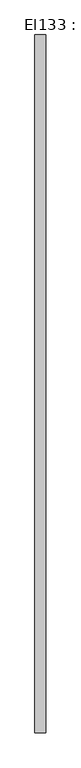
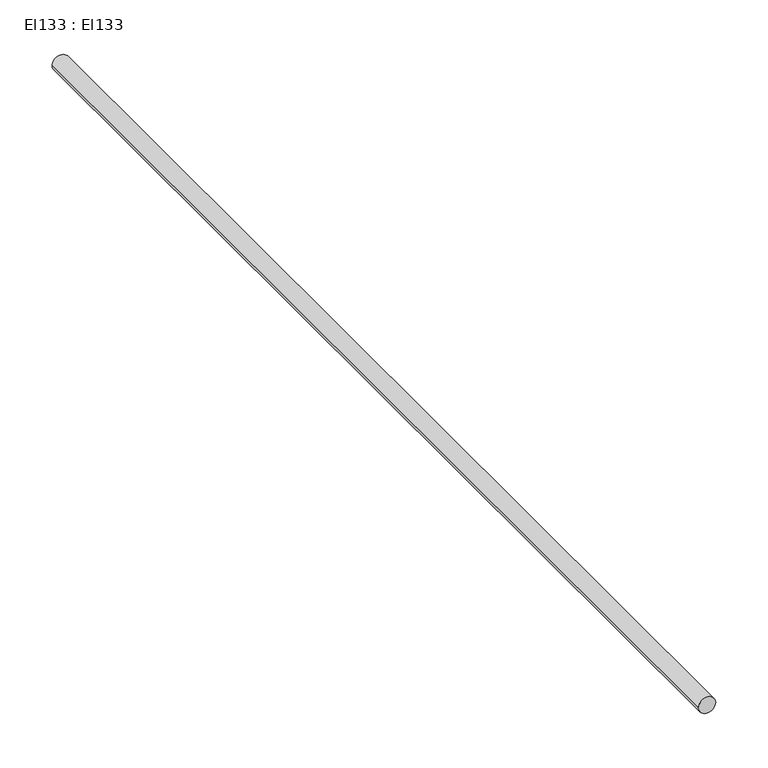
"""IFC4 building model written with IfcOpenShell, lengths in millimetres: cable carrier segment geometry, El133 : El133."""

from ifc_helpers import new_model, si_unit, point, frame, frame_2d, origin, place, context, project, spatial, circle_curve, trimmed, segment, composite_curve, outline, extrude, source, transform, mapped, element, save


def el133_el133_30563df9(model_context):
    return source(origin(), model_context, "Body", "SweptSolid", [
        extrude(outline(composite_curve([segment(trimmed(circle_curve(frame_2d((300.0, 26330.0)), 9.5), [point((300.0, 26320.5))], [point((300.0, 26339.5))], False, "CARTESIAN"), True, "CONTINUOUS"), segment(trimmed(circle_curve(frame_2d((300.0, 26330.0)), 9.5), [point((300.0, 26339.5))], [point((300.0, 26320.5))], False, "CARTESIAN"), True, "CONTINUOUS")], self_intersect=False)), frame((0.0, 10561.771, 0.0), z_axis=(0.0, 1.0, 0.0), x_axis=(0.0, 0.0, 1.0)), (0.0, 0.0, 1.0), 1241.86),
    ])


if __name__ == "__main__":
    model = new_model("IFC4")
    model_context = context("Model", 3, world=origin())
    ifc_project = project(units=[si_unit("LENGTHUNIT", "METRE", prefix="MILLI")], contexts=[model_context])
    site = spatial("IfcSite", under=ifc_project)
    building = spatial("IfcBuilding", under=site)
    placement = place(None, origin())
    el133_el133_shape = el133_el133_30563df9(model_context)
    element("IfcCableCarrierSegment", 1, ObjectType="El133 : El133", at=placement, inside=building, context=model_context, shape_type="MappedRepresentation", body=[
        mapped(el133_el133_shape, transform((0.0, 0.0, 0.0), x_axis=(1.0, 0.0, 0.0), y_axis=(0.0, 1.0, 0.0), z_axis=(0.0, 0.0, 1.0))),
    ])
    save(model, "model.ifc")
